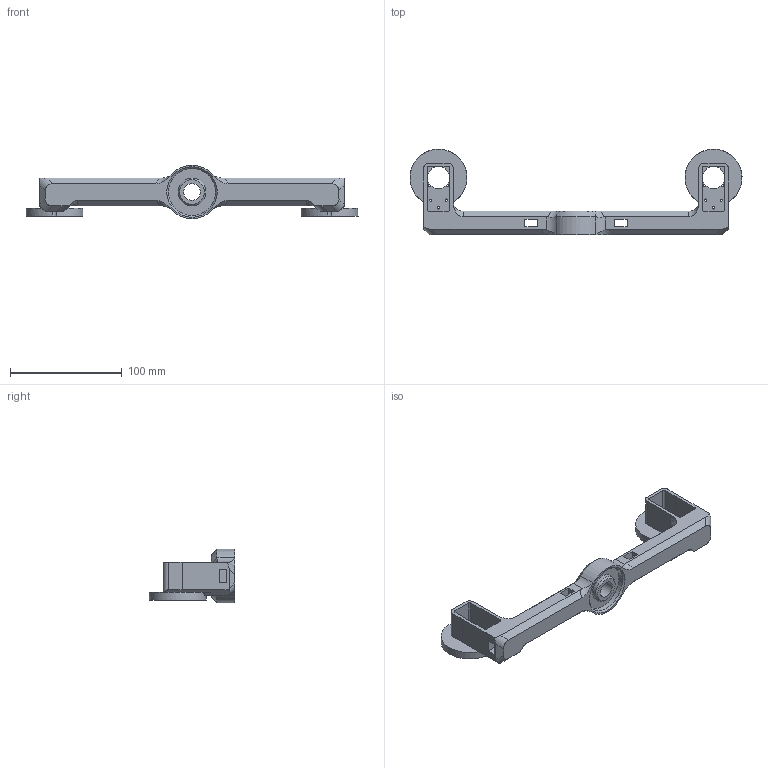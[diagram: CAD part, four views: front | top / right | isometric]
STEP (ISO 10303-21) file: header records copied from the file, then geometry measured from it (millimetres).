
FILE_DESCRIPTION(/* description */ (''),/* implementation_level */ '2;1');
FILE_NAME(/* name */ '3DP_Rear x1.step',/* time_stamp */ '2025-11-20T01:03:19+08:00',/* author */ (''),/* organization */ (''),/* preprocessor_version */ 'ST-DEVELOPER v20.1',/* originating_system */ 'Autodesk Translation Framework v14.21.0.0',/* authorisation */ '');
FILE_SCHEMA (('AUTOMOTIVE_DESIGN { 1 0 10303 214 3 1 1 }'));
Length unit declared in the file: millimetre
Products named in the file (1): 3DP_Rear x1
Bounding box: 296.96 x 76.5 x 48.1 mm (x, y, z)
Volume: 153984 mm3; surface area: 56958.1 mm2
Topology: 1 solids, 1 shells, 155 faces, 444 edges, 290 vertices
Faces by surface type: plane 67, cylinder 63, cone 15, bspline 10
Full cylindrical faces by diameter (mm): 1.98 x2, 2 x4, 15 x1, 24.9 x1, 42.1 x1
Entity records: 5586 total; most frequent: CARTESIAN_POINT 1422, ORIENTED_EDGE 888, DIRECTION 848, EDGE_CURVE 444, AXIS2_PLACEMENT_3D 312, VERTEX_POINT 290, LINE 224, VECTOR 224
